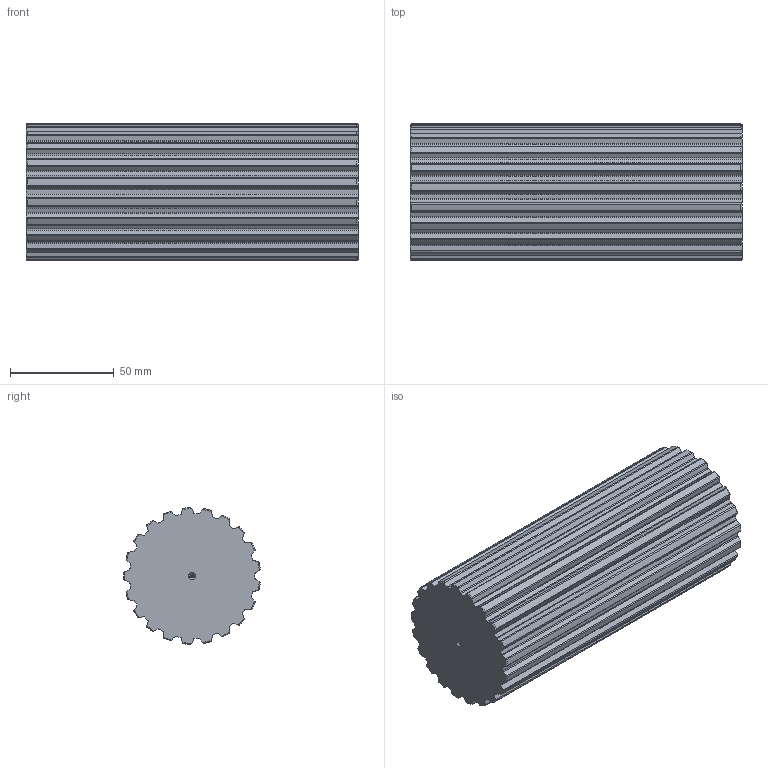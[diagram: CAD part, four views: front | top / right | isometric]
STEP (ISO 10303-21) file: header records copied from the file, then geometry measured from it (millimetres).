
FILE_DESCRIPTION(('STEP AP203'),'1');
FILE_NAME('bart_21.stp','2022-04-21T08:04:37',('TraceParts'),('TraceParts S.A.'),'Spatial InterOp 3D',' ',' ');
FILE_SCHEMA(('CONFIG_CONTROL_DESIGN'));
Length unit declared in the file: millimetre
Products named in the file (1): 1
Bounding box: 160 x 65.67 x 65.82 mm (x, y, z)
Volume: 504172 mm3; surface area: 48021.2 mm2
Topology: 1 solids, 1 shells, 226 faces, 664 edges, 438 vertices
Faces by surface type: cylinder 130, cone 52, plane 44
Entity records: 7922 total; most frequent: CARTESIAN_POINT 2081, ORIENTED_EDGE 1320, DIRECTION 1172, EDGE_CURVE 660, AXIS2_PLACEMENT_3D 453, VERTEX_POINT 438, LINE 266, VECTOR 266
